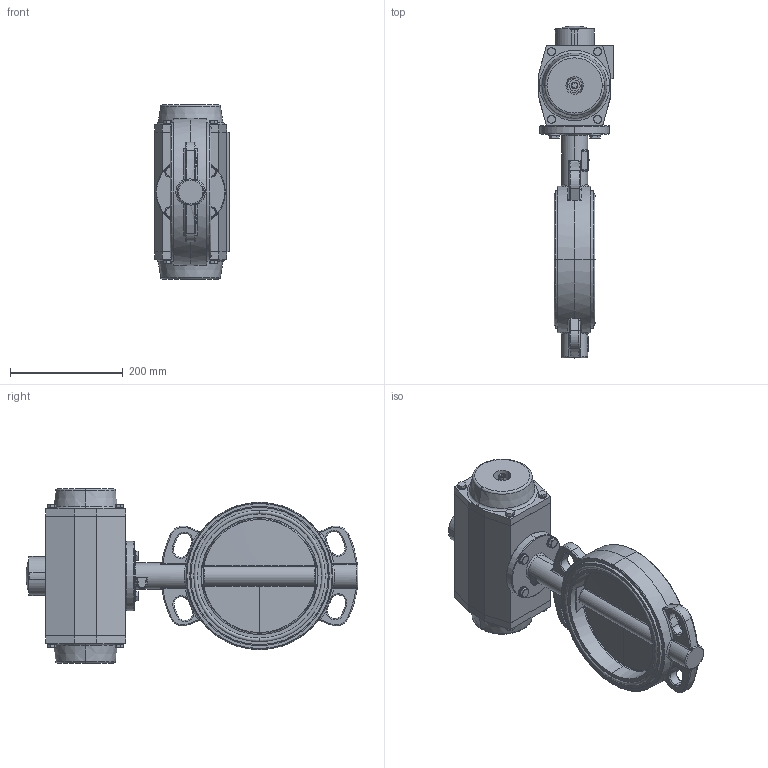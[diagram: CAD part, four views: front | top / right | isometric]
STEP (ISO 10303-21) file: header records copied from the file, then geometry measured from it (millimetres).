
FILE_DESCRIPTION (( 'STEP AP214' ), '1' );
FILE_NAME ('VTB200 DN200 + AP4.5D.STEP', '2015-11-27T11:47:38', ( '' ), ( '' ), 'SwSTEP 2.0', 'SolidWorks 2013', '' );
FILE_SCHEMA (( 'AUTOMOTIVE_DESIGN' ));
Length unit declared in the file: millimetre
Products named in the file (9): Verloopster 22_17; AP4.5_Default<As Machined>; VTB200 Wafer DN200 BS 2013; Typeplaatje xxmm; Klep VTB200 DN200 2013; Huis met zitting DN200 2013; VTB200 DN200 + AP4.5D; hex screw gradeab_iso_ISO 4017 - M10 x 35-N; plain washer normal grade c_iso_Washer ISO 7091 - 10
Assembly tree (14 placements, depth 3):
  VTB200 DN200 + AP4.5D
    VTB200 Wafer DN200 BS 2013
      Huis met zitting DN200 2013
      Klep VTB200 DN200 2013
      Typeplaatje xxmm
    AP4.5_Default<As Machined>
    Verloopster 22_17
    plain washer normal grade c_iso_Washer ISO 7091 - 10  x4
    hex screw gradeab_iso_ISO 4017 - M10 x 35-N  x4
Bounding box: 133 x 589.9 x 310 mm (x, y, z)
Volume: 7274140.7 mm3; surface area: 596530.1 mm2
Topology: 24 solids, 24 shells, 1083 faces, 2574 edges, 1562 vertices
Faces by surface type: plane 454, cylinder 233, bspline 160, torus 132, cone 94, sphere 10
Entity records: 46391 total; most frequent: CARTESIAN_POINT 22048, ORIENTED_EDGE 4628, DIRECTION 4388, EDGE_CURVE 2314, AXIS2_PLACEMENT_3D 1659, VERTEX_POINT 1436, LINE 1070, VECTOR 1070
